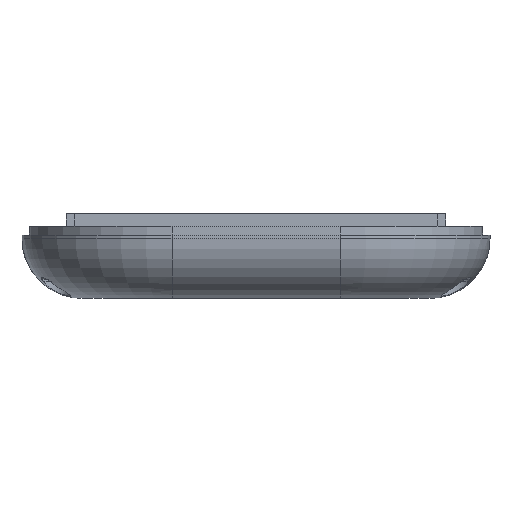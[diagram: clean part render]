
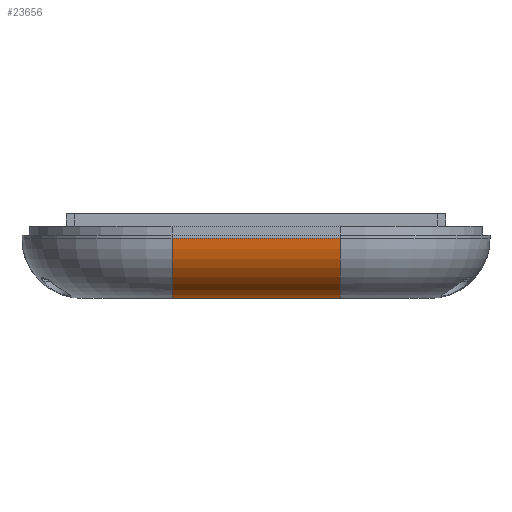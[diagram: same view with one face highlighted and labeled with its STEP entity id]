
A CAD part, front view. The second image highlights one B-rep face of the part: STEP entity #23656.
In plain terms, the highlighted cylindrical face has radius 10 mm (diameter 20 mm), a partial arc.
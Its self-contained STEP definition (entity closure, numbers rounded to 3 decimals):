
#1262=LINE('',#33611,#3445);
#1434=LINE('',#35631,#3617);
#3445=VECTOR('',#27129,1.);
#3617=VECTOR('',#27325,1.);
#5548=FACE_OUTER_BOUND('',#6898,.T.);
#6898=EDGE_LOOP('',(#16802,#16803,#16804,#16805));
#8270=CIRCLE('',#25048,10.);
#8347=CIRCLE('',#25143,10.);
#9830=VERTEX_POINT('',#32628);
#9831=VERTEX_POINT('',#32630);
#10004=VERTEX_POINT('',#33609);
#10460=VERTEX_POINT('',#35629);
#12327=EDGE_CURVE('',#9831,#9830,#8270,.T.);
#12525=EDGE_CURVE('',#9830,#10004,#1262,.T.);
#12982=EDGE_CURVE('',#10460,#10004,#8347,.T.);
#12983=EDGE_CURVE('',#10460,#9831,#1434,.T.);
#16802=ORIENTED_EDGE('',*,*,#12327,.T.);
#16803=ORIENTED_EDGE('',*,*,#12525,.T.);
#16804=ORIENTED_EDGE('',*,*,#12982,.F.);
#16805=ORIENTED_EDGE('',*,*,#12983,.T.);
#23342=CYLINDRICAL_SURFACE('',#25142,10.);
#23656=ADVANCED_FACE('',(#5548),#23342,.T.);
#25048=AXIS2_PLACEMENT_3D('',#32631,#26865,#26866);
#25142=AXIS2_PLACEMENT_3D('',#35628,#27321,#27322);
#25143=AXIS2_PLACEMENT_3D('',#35630,#27323,#27324);
#26865=DIRECTION('center_axis',(1.,0.,0.));
#26866=DIRECTION('ref_axis',(0.,-1.,0.));
#27129=DIRECTION('',(1.,0.,0.));
#27321=DIRECTION('center_axis',(-1.,0.,0.));
#27322=DIRECTION('ref_axis',(0.,-0.707,-0.707));
#27323=DIRECTION('center_axis',(1.,0.,0.));
#27324=DIRECTION('ref_axis',(0.,-1.,0.));
#27325=DIRECTION('',(-1.,0.,0.));
#32628=CARTESIAN_POINT('',(-14.,-65.,-24.));
#32630=CARTESIAN_POINT('',(-14.,-75.,-14.));
#32631=CARTESIAN_POINT('Origin',(-14.,-65.,-14.));
#33609=CARTESIAN_POINT('',(14.,-65.,-24.));
#33611=CARTESIAN_POINT('',(7.,-65.,-24.));
#35628=CARTESIAN_POINT('Origin',(7.,-65.,-14.));
#35629=CARTESIAN_POINT('',(14.,-75.,-14.));
#35630=CARTESIAN_POINT('Origin',(14.,-65.,-14.));
#35631=CARTESIAN_POINT('',(7.,-75.,-14.));
